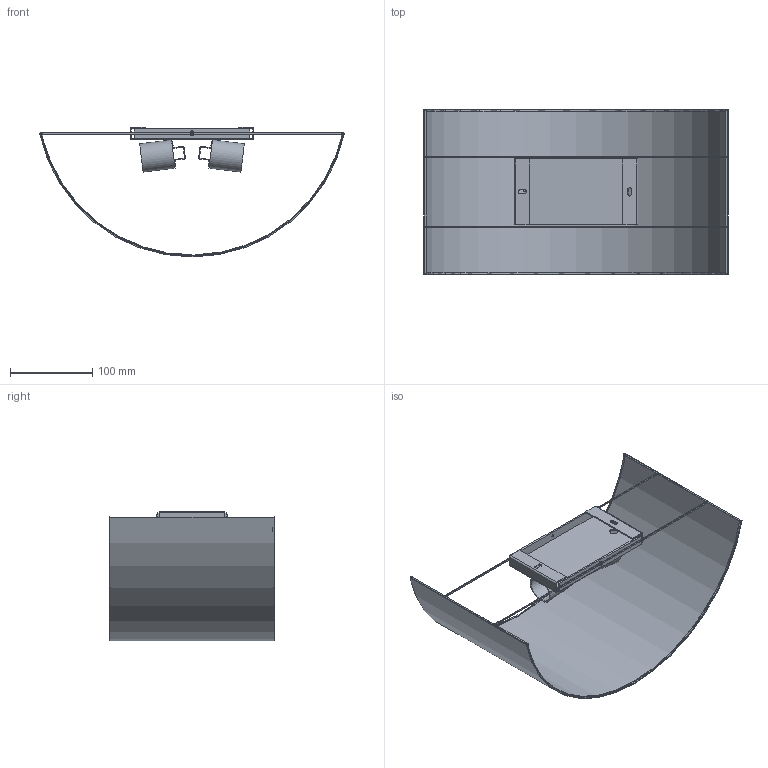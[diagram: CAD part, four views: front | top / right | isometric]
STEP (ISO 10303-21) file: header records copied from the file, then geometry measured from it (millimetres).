
FILE_DESCRIPTION(/* description */ (''),/* implementation_level */ '2;1');
FILE_NAME(/* name */ '66401-109.step',/* time_stamp */ '2024-07-01T12:54:37+02:00',/* author */ ('RenataManzini'),/* organization */ (''),/* preprocessor_version */ 'ST-DEVELOPER v20',/* originating_system */ 'AutoCAD Mechanical',/* authorisation */ '');
FILE_SCHEMA (('AUTOMOTIVE_DESIGN { 1 0 10303 214 3 1 1 }'));
Length unit declared in the file: millimetre
Products named in the file (3): Product; base_2L - BASE-482623-_3D_; pantalla_109 - PANTALLA-484296-_3D_
Assembly tree (2 placements, depth 2):
  Product
    base_2L - BASE-482623-_3D_
    pantalla_109 - PANTALLA-484296-_3D_
Bounding box: 370 x 200 x 157.58 mm (x, y, z)
Volume: 163272.8 mm3; surface area: 281679.5 mm2
Topology: 10 solids, 14 shells, 154 faces, 389 edges, 257 vertices
Faces by surface type: plane 90, cylinder 60, torus 4
Entity records: 5261 total; most frequent: CARTESIAN_POINT 1360, DIRECTION 832, ORIENTED_EDGE 748, EDGE_CURVE 386, AXIS2_PLACEMENT_3D 288, LINE 256, VECTOR 256, VERTEX_POINT 252
